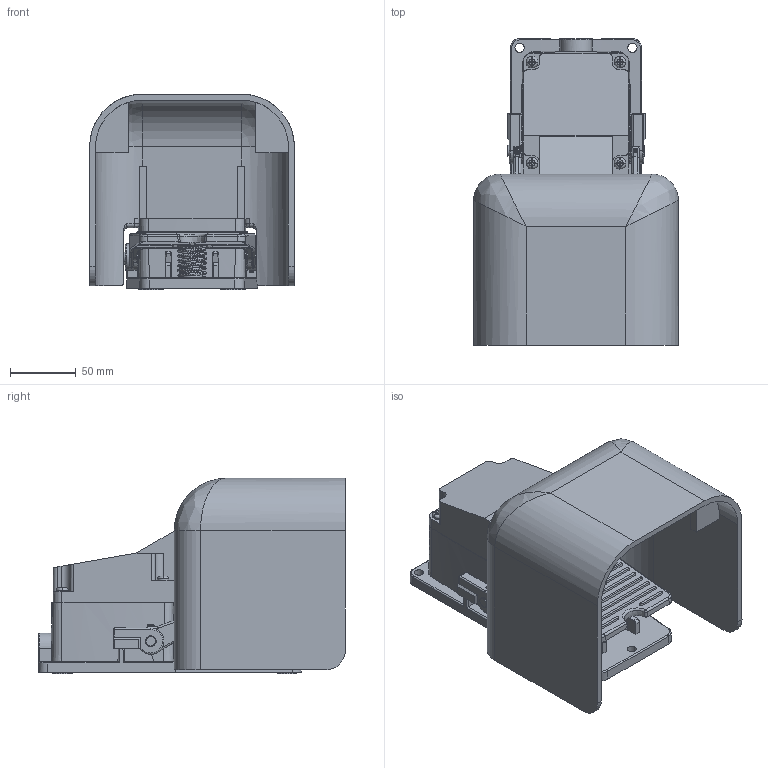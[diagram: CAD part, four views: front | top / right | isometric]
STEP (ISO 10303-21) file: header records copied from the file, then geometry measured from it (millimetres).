
FILE_DESCRIPTION((''),'2;1');
FILE_NAME('ASM0011_ASM','2016-09-12T',('ABS'),(''),'PRO/ENGINEER BY PARAMETRIC TECHNOLOGY CORPORATION, 2012360','PRO/ENGINEER BY PARAMETRIC TECHNOLOGY CORPORATION, 2012360','');
FILE_SCHEMA(('CONFIG_CONTROL_DESIGN'));
Products named in the file (1): ASM0011_ASM
Bounding box: 156 x 233.85 x 149 mm (x, y, z)
Volume: 699749 mm3; surface area: 297572.7 mm2
Topology: 1 solids, 8 shells, 1248 faces, 3366 edges, 2173 vertices
Faces by surface type: plane 566, cylinder 443, cone 71, torus 62, bspline 56, extrusion 32, sphere 18
Entity records: 47568 total; most frequent: CARTESIAN_POINT 17149, ORIENTED_EDGE 6696, DIRECTION 5847, EDGE_CURVE 3348, VERTEX_POINT 2173, AXIS2_PLACEMENT_3D 2023, VECTOR 1801, LINE 1769
